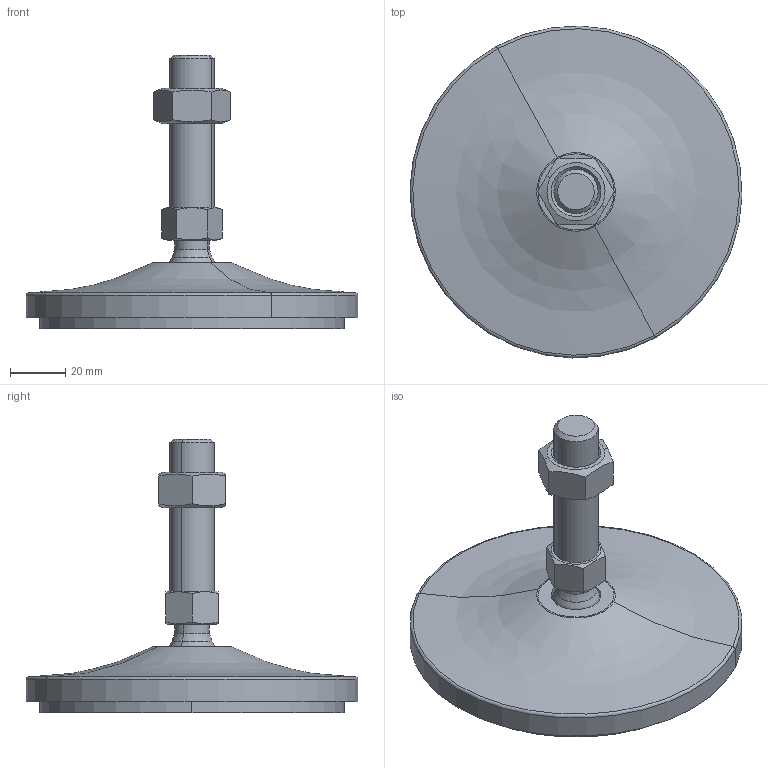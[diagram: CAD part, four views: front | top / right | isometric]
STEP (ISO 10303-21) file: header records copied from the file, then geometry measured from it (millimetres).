
FILE_DESCRIPTION(('CATIA V5 STEP Exchange'),'2;1');
FILE_NAME('C:\Users\ALI OZGUN\Desktop\alhan\saplama2\560121610AV.stp','2017-09-21T10:31:45+00:00',('none'),('none'),'CATIA Version 5 Release 21 GA (IN-10)','CATIA V5 STEP AP203','none');
FILE_SCHEMA(('CONFIG_CONTROL_DESIGN'));
Length unit declared in the file: millimetre
Products named in the file (1): 560121610AV
Bounding box: 119.97 x 119.97 x 99 mm (x, y, z)
Volume: 191727.6 mm3; surface area: 57460.3 mm2
Topology: 4 solids, 4 shells, 64 faces, 142 edges, 87 vertices
Faces by surface type: plane 22, cylinder 16, cone 16, torus 4, revolution 4, sphere 2
Entity records: 1936 total; most frequent: CARTESIAN_POINT 628, ORIENTED_EDGE 280, DIRECTION 197, EDGE_CURVE 140, AXIS2_PLACEMENT_3D 106, VERTEX_POINT 87, EDGE_LOOP 71, ADVANCED_FACE 64
